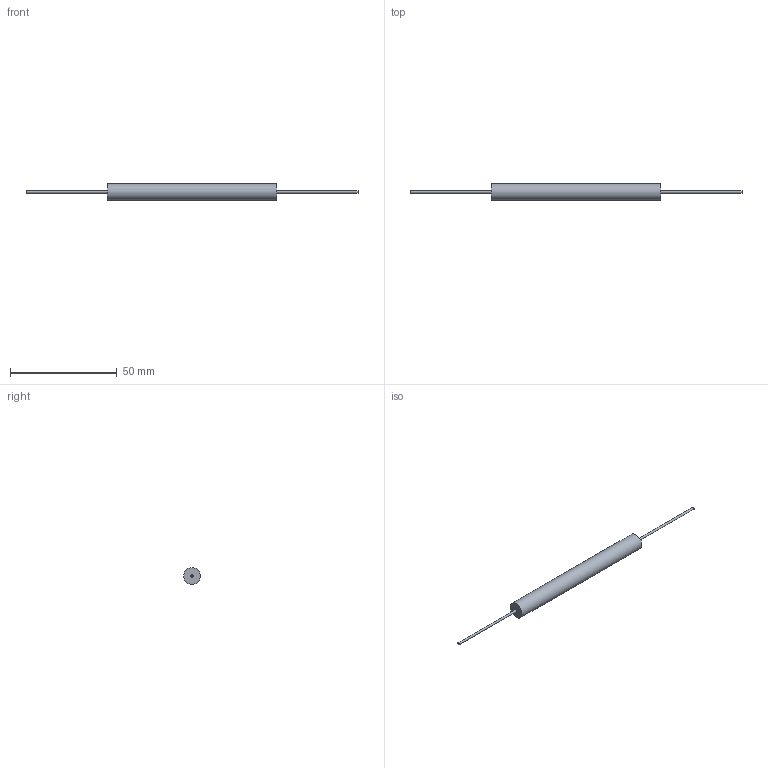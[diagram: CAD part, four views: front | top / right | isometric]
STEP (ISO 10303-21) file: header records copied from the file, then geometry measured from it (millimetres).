
FILE_DESCRIPTION(/* description */ (''),/* implementation_level */ '2;1');
FILE_NAME(/* name */ 'C:\Users\mulla\Documents\SEI Models\Inventor Files\HVAM\3D\HVAM75_stp.stp',/* time_stamp */ '2019-06-12T13:01:59-04:00',/* author */ ('mulla'),/* organization */ (''),/* preprocessor_version */ 'ST-DEVELOPER v16.1',/* originating_system */ 'Autodesk Inventor 2016',/* authorisation */ '');
FILE_SCHEMA (('AUTOMOTIVE_DESIGN { 1 0 10303 214 3 1 1 }'));
Length unit declared in the file: millimetre
Products named in the file (1): HVAM75
Bounding box: 155.58 x 7.87 x 7.87 mm (x, y, z)
Volume: 3923.7 mm3; surface area: 2307.4 mm2
Topology: 3 solids, 3 shells, 9 faces, 9 edges, 6 vertices
Faces by surface type: plane 6, cylinder 3
Full cylindrical faces by diameter (mm): 1.02 x2, 7.87 x1
Entity records: 186 total; most frequent: DIRECTION 32, CARTESIAN_POINT 22, AXIS2_PLACEMENT_3D 16, EDGE_LOOP 12, ORIENTED_EDGE 12, FACE_OUTER_BOUND 9, ADVANCED_FACE 9, PLANE 6
